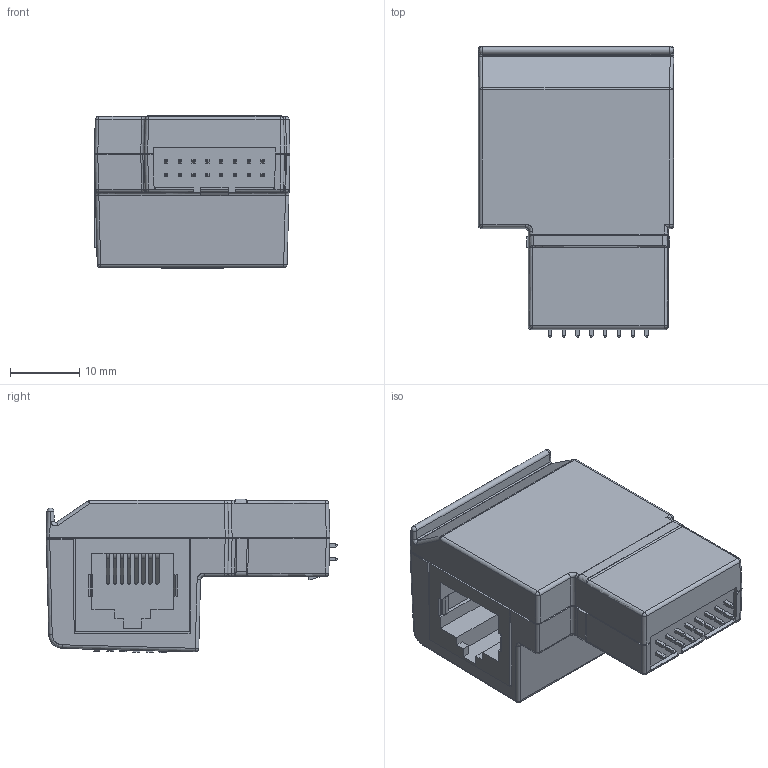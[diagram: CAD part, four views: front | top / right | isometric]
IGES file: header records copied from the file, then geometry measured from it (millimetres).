
Start section: SolidWorks IGES file using analytic representation for surfaces
Global section: file name: H:\UniStream\UniPitzi\3d shared files_4.3 and 5 inch\UNI IO Module EXP\CAD FILES\3D\UAG-CX-XB-01.IGS; native system: SolidWorks 2015; preprocessor: SolidWorks 2015; author: laorb; date: 180123.142837; units: millimetre
Bounding box: 28.34 x 42.16 x 22.26 mm (x, y, z)
Surface area: 5562.3 mm2 (no closed solid volume)
Topology: 0 solids, 0 shells, 597 faces, 3851 edges, 3839 vertices
Faces by surface type: bspline 448, revolution 149
